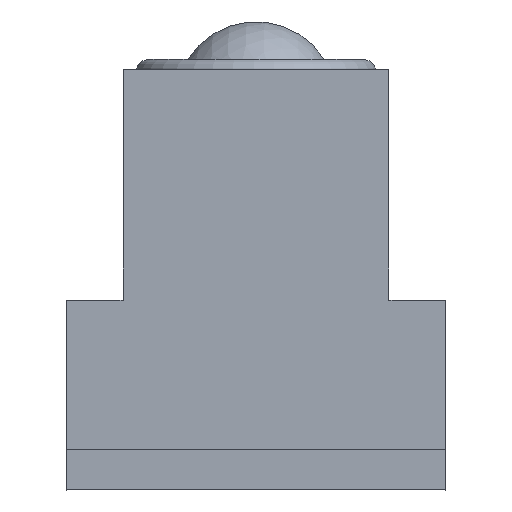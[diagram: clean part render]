
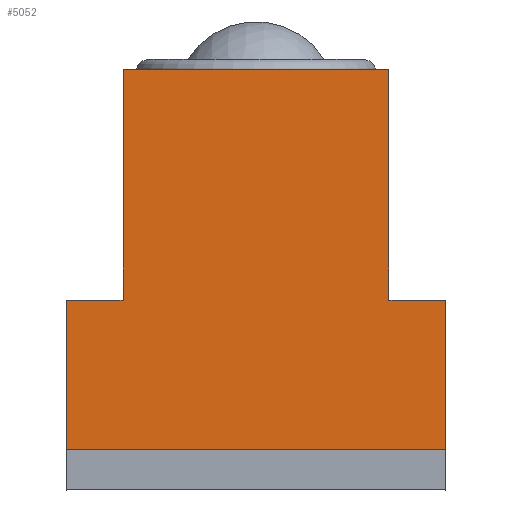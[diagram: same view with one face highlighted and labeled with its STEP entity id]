
A CAD part, left-side view. The second image highlights one B-rep face of the part: STEP entity #5052.
In plain terms, the highlighted planar face has unit normal (-1, 0, 0) as drawn and (0, 0, -1) by its records, which use the part's own axes.
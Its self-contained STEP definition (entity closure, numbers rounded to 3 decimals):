
#554=PLANE('',#5637);
#743=LINE('',#8740,#983);
#747=LINE('',#8747,#987);
#748=LINE('',#8751,#988);
#752=LINE('',#8758,#992);
#756=LINE('',#8765,#996);
#757=LINE('',#8768,#997);
#760=LINE('',#8774,#1000);
#763=LINE('',#8779,#1003);
#983=VECTOR('',#7025,18.2);
#987=VECTOR('',#7031,21.);
#988=VECTOR('',#7034,11.8);
#992=VECTOR('',#7040,4.5);
#996=VECTOR('',#7046,18.2);
#997=VECTOR('',#7049,4.5);
#1000=VECTOR('',#7054,11.8);
#1003=VECTOR('',#7059,30.);
#1684=FACE_OUTER_BOUND('',#2223,.T.);
#2223=EDGE_LOOP('',(#4558,#4559,#4560,#4561,#4562,#4563,#4564,#4565));
#2928=VERTEX_POINT('',#8737);
#2929=VERTEX_POINT('',#8739);
#2931=VERTEX_POINT('',#8745);
#2932=VERTEX_POINT('',#8749);
#2933=VERTEX_POINT('',#8750);
#2937=VERTEX_POINT('',#8763);
#2938=VERTEX_POINT('',#8767);
#2940=VERTEX_POINT('',#8773);
#3472=EDGE_CURVE('',#2928,#2929,#743,.T.);
#3476=EDGE_CURVE('',#2931,#2928,#747,.T.);
#3477=EDGE_CURVE('',#2932,#2933,#748,.T.);
#3481=EDGE_CURVE('',#2929,#2932,#752,.T.);
#3485=EDGE_CURVE('',#2937,#2931,#756,.T.);
#3486=EDGE_CURVE('',#2938,#2937,#757,.T.);
#3489=EDGE_CURVE('',#2940,#2938,#760,.T.);
#3492=EDGE_CURVE('',#2933,#2940,#763,.T.);
#4558=ORIENTED_EDGE('',*,*,#3492,.F.);
#4559=ORIENTED_EDGE('',*,*,#3477,.F.);
#4560=ORIENTED_EDGE('',*,*,#3481,.F.);
#4561=ORIENTED_EDGE('',*,*,#3472,.F.);
#4562=ORIENTED_EDGE('',*,*,#3476,.F.);
#4563=ORIENTED_EDGE('',*,*,#3485,.F.);
#4564=ORIENTED_EDGE('',*,*,#3486,.F.);
#4565=ORIENTED_EDGE('',*,*,#3489,.F.);
#5052=ADVANCED_FACE('',(#1684),#554,.F.);
#5637=AXIS2_PLACEMENT_3D('',#8782,#7063,#7064);
#7025=DIRECTION('',(0.,-1.,0.));
#7031=DIRECTION('',(-1.,0.,0.));
#7034=DIRECTION('',(0.,-1.,0.));
#7040=DIRECTION('',(-1.,0.,0.));
#7046=DIRECTION('',(0.,1.,0.));
#7049=DIRECTION('',(-1.,0.,0.));
#7054=DIRECTION('',(0.,1.,0.));
#7059=DIRECTION('',(1.,0.,0.));
#7063=DIRECTION('center_axis',(0.,0.,1.));
#7064=DIRECTION('ref_axis',(1.,0.,0.));
#8737=CARTESIAN_POINT('',(-10.5,30.,0.));
#8739=CARTESIAN_POINT('',(-10.5,11.8,0.));
#8740=CARTESIAN_POINT('',(-10.5,30.,0.));
#8745=CARTESIAN_POINT('',(10.5,30.,0.));
#8747=CARTESIAN_POINT('',(10.5,30.,0.));
#8749=CARTESIAN_POINT('',(-15.,11.8,0.));
#8750=CARTESIAN_POINT('',(-15.,0.,0.));
#8751=CARTESIAN_POINT('',(-15.,11.8,0.));
#8758=CARTESIAN_POINT('',(-10.5,11.8,0.));
#8763=CARTESIAN_POINT('',(10.5,11.8,0.));
#8765=CARTESIAN_POINT('',(10.5,11.8,0.));
#8767=CARTESIAN_POINT('',(15.,11.8,0.));
#8768=CARTESIAN_POINT('',(15.,11.8,0.));
#8773=CARTESIAN_POINT('',(15.,0.,0.));
#8774=CARTESIAN_POINT('',(15.,0.,0.));
#8779=CARTESIAN_POINT('',(-15.,0.,0.));
#8782=CARTESIAN_POINT('Origin',(0.,13.635,0.));
